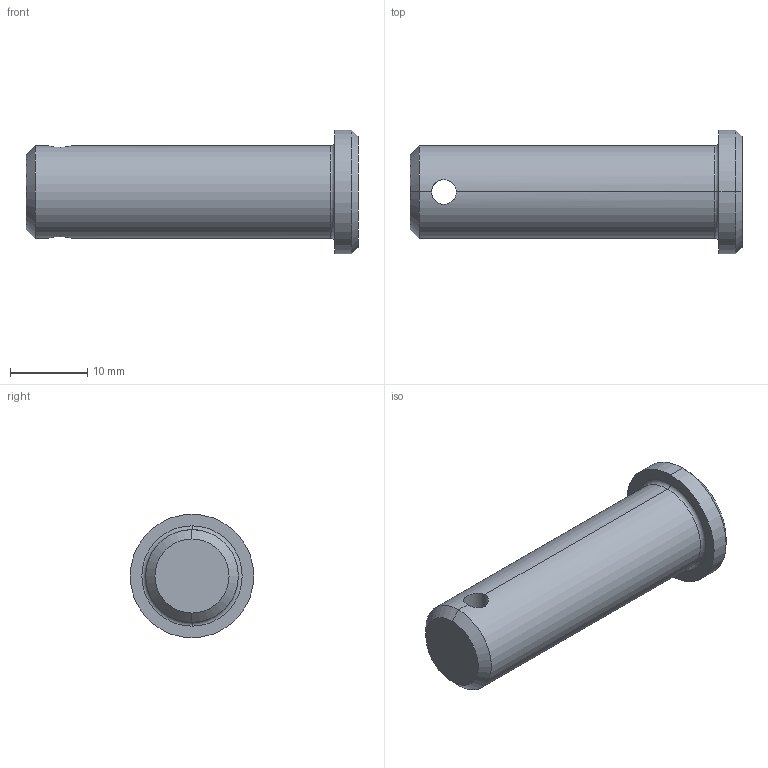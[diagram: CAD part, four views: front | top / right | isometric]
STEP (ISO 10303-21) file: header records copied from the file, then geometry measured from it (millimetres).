
FILE_DESCRIPTION (( 'STEP AP203' ), '1' );
FILE_NAME ('Wiberger-sms2360_12x40.step', '2012-10-09T08:57:36', ( 'Magnus' ), ( 'Wiberger' ), 'SwSTEP 2.0', 'SolidWorks 2011', '' );
FILE_SCHEMA (( 'CONFIG_CONTROL_DESIGN' ));
Length unit declared in the file: millimetre
Products named in the file (1): Wiberger-sms2360_12x40
Bounding box: 43 x 16 x 16 mm (x, y, z)
Volume: 4992.6 mm3; surface area: 2102.4 mm2
Topology: 1 solids, 1 shells, 15 faces, 32 edges, 18 vertices
Faces by surface type: cylinder 6, cone 4, plane 3, torus 2
Entity records: 579 total; most frequent: CARTESIAN_POINT 170, DIRECTION 76, ORIENTED_EDGE 64, EDGE_CURVE 32, AXIS2_PLACEMENT_3D 32, VERTEX_POINT 18, EDGE_LOOP 16, CIRCLE 16
